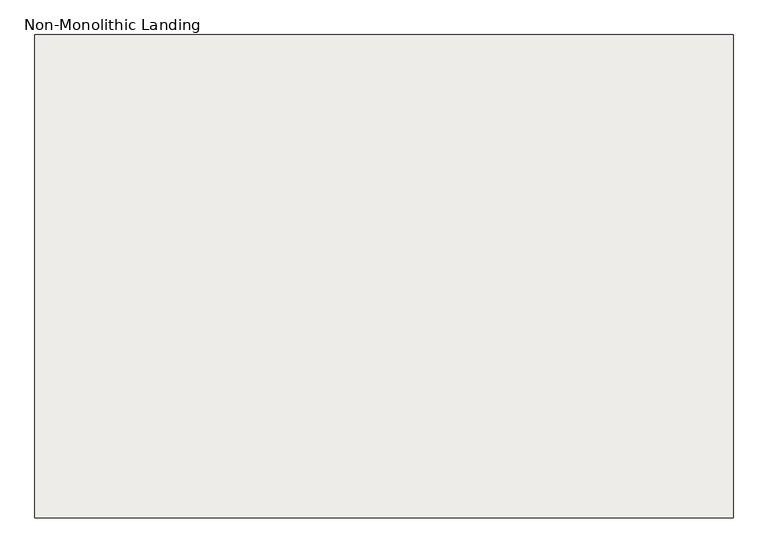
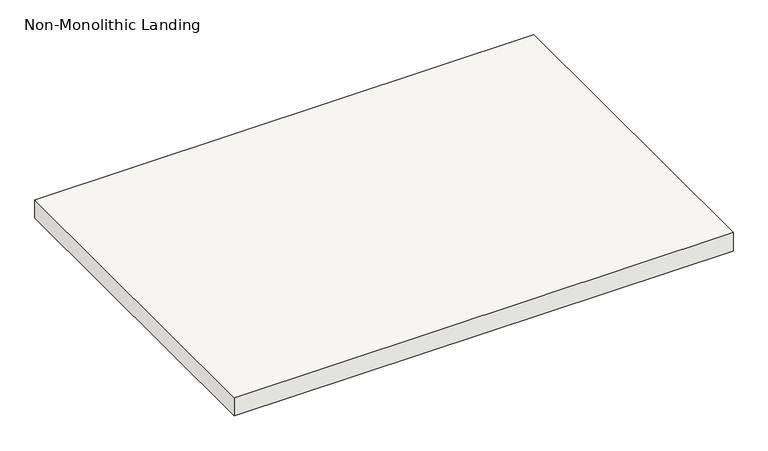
"""IFC4 building model written with IfcOpenShell, lengths in millimetres: slab geometry, Non-Monolithic Landing."""

from ifc_helpers import new_model, si_unit, frame, origin, place, context, project, spatial, polyline, outline, extrude, source, transform, mapped, element, save


def non_monolithic_landing_85741d80(model_context):
    return source(origin(), model_context, "Body", "SweptSolid", [
        extrude(outline(polyline([(88025.1145262, 16760.4395941), (89345.9145262, 16760.4395941), (89345.9145262, 15846.0395941), (88025.1145262, 15846.0395941), (88025.1145262, 16760.4395941)])), frame((0.0, 0.0, 2126.3428571), z_axis=(0.0, 0.0, 1.0), x_axis=(1.0, 0.0, 0.0)), (0.0, 0.0, 1.0), 50.8),
    ])


if __name__ == "__main__":
    model = new_model("IFC4")
    model_context = context("Model", 3, world=origin())
    ifc_project = project(units=[si_unit("LENGTHUNIT", "METRE", prefix="MILLI")], contexts=[model_context])
    site = spatial("IfcSite", under=ifc_project)
    building = spatial("IfcBuilding", under=site)
    placement = place(None, origin())
    non_monolithic_landing_shape = non_monolithic_landing_85741d80(model_context)
    element("IfcSlab", 1, ObjectType="Non-Monolithic Landing", at=placement, inside=building, context=model_context, shape_type="MappedRepresentation", body=[
        mapped(non_monolithic_landing_shape, transform((0.0, 0.0, 0.0), x_axis=(1.0, 0.0, 0.0), y_axis=(0.0, 1.0, 0.0), z_axis=(0.0, 0.0, 1.0))),
    ])
    save(model, "model.ifc")
